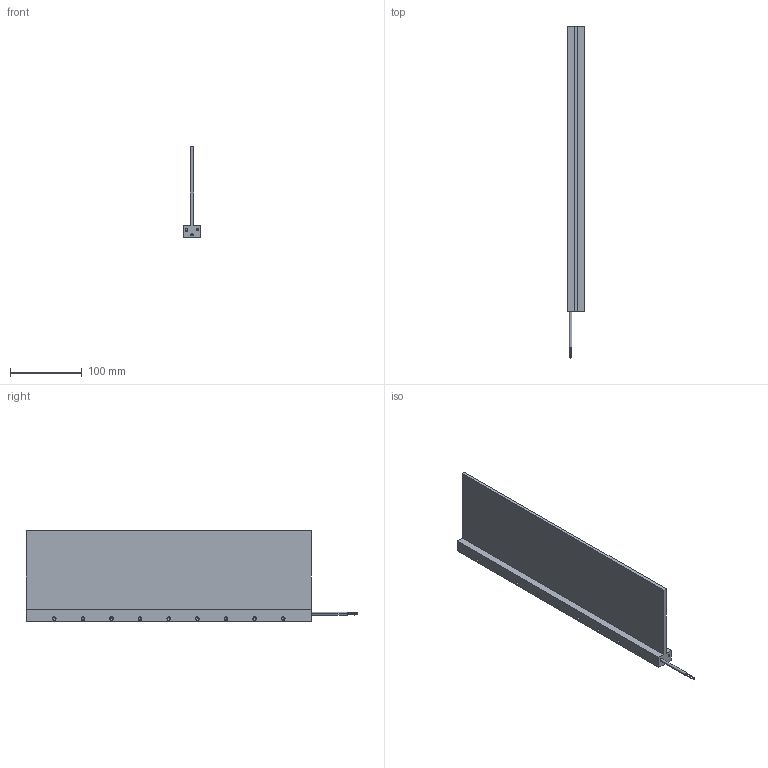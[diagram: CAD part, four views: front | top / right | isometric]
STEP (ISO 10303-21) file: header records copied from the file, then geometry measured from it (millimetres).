
FILE_DESCRIPTION((''),'2;1');
FILE_NAME('IL24-100','2006-04-05T',('saurabh.singhal'),('Kollmorgen'),'PRO/ENGINEER BY PARAMETRIC TECHNOLOGY CORPORATION, 2005310','PRO/ENGINEER BY PARAMETRIC TECHNOLOGY CORPORATION, 2005310','');
FILE_SCHEMA(('CONFIG_CONTROL_DESIGN'));
Length unit declared in the file: millimetre
Products named in the file (1): IL24-100
Bounding box: 24.4 x 463.8 x 127.3 mm (x, y, z)
Volume: 356689.1 mm3; surface area: 129554.2 mm2
Topology: 1 solids, 41 shells, 329 faces, 822 edges, 508 vertices
Faces by surface type: cylinder 186, cone 80, plane 63
Entity records: 9415 total; most frequent: DIRECTION 1854, CARTESIAN_POINT 1580, ORIENTED_EDGE 1324, AXIS2_PLACEMENT_3D 782, EDGE_CURVE 742, VERTEX_POINT 508, CIRCLE 452, EDGE_LOOP 422
